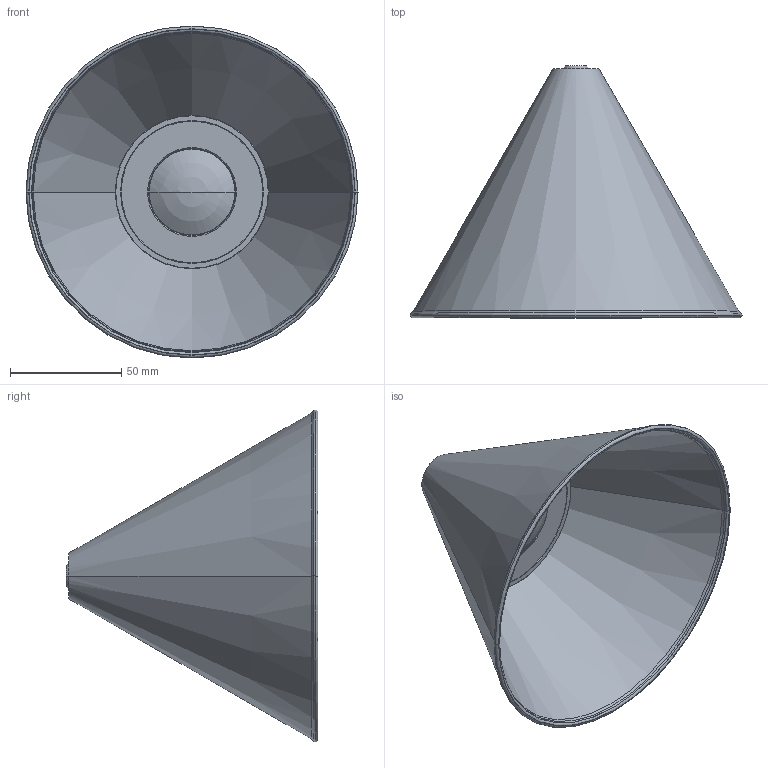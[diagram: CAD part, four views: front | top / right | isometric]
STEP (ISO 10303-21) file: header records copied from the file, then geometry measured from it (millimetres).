
FILE_DESCRIPTION((''),'2;1');
FILE_NAME('CORDINACONICOVETROTRASPARENTE','2025-05-13T10:24:19',('elena.baldelli'),(''),'CREO PARAMETRIC BY PTC INC, 2020354','CREO PARAMETRIC BY PTC INC, 2020354','');
FILE_SCHEMA(('CONFIG_CONTROL_DESIGN'));
Length unit declared in the file: millimetre
Products named in the file (1): CORDINACONICOVETROTRASPARENTE
Bounding box: 149.42 x 113.3 x 149.42 mm (x, y, z)
Surface area: 79616.4 mm2 (no closed solid volume)
Topology: 0 solids, 6 shells, 29 faces, 72 edges, 45 vertices
Faces by surface type: torus 16, cone 6, plane 3, cylinder 2, sphere 2
Entity records: 905 total; most frequent: DIRECTION 190, CARTESIAN_POINT 144, ORIENTED_EDGE 116, AXIS2_PLACEMENT_3D 91, EDGE_CURVE 70, CIRCLE 62, VERTEX_POINT 45, EDGE_LOOP 32
